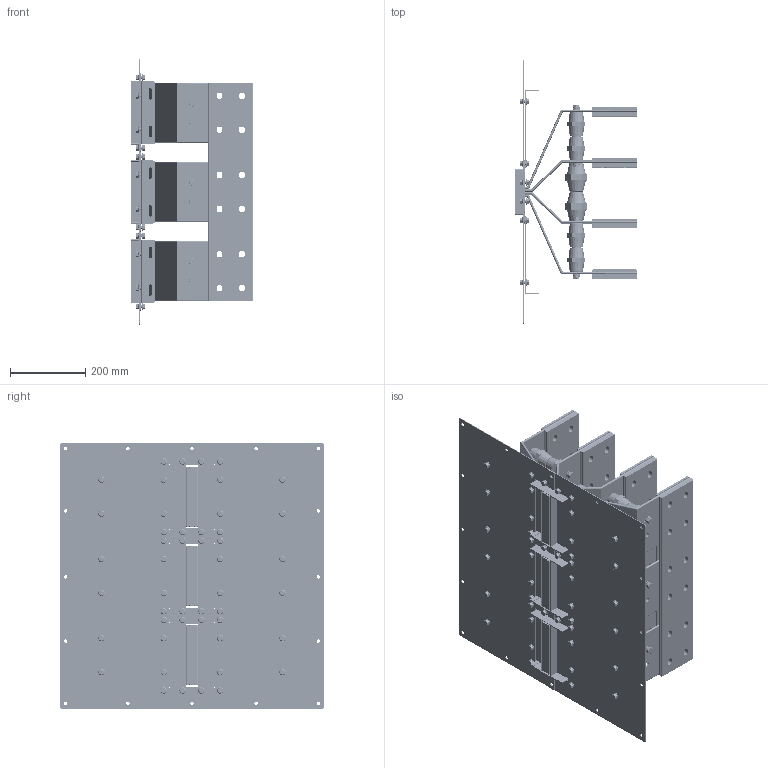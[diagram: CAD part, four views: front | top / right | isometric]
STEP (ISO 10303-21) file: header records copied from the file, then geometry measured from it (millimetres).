
FILE_DESCRIPTION(('CATIA V5 STEP','CAx-IF Rec.Pracs.--- Model Styling and Organization---1.5--- 2016-08-15','CAx-IF Rec.Pracs.---Supplemental Geometry---1.0---2011-11-01','CAx-IF Rec.Pracs.--- Composite Materials ---1.1---2010-07-15'),'2;1');
FILE_NAME('K:\COSCN 2011\32372311_RiduzioneSezioniBarre\03_Studio\__Modelli semplificati\XCP_UB semplificati per studi\XCP-S_UB_4C_Pe_CRT_Assieme\Al\XCP-S_UB_4C_Pe_T_Assieme - 5000A Al\XCP-S_UB_4C_Pe_T_Assieme - 5000A Al_CRT.stp','2025-05-12T12:48:27+00:00',('Utente Bticino'),('Bticino S.p.A.'),'CATIA Version 5-6 Release 2020 SP5','CATIA V5 STEP AP214 v2','none');
FILE_SCHEMA(('AUTOMOTIVE_DESIGN { 1 0 10303 214 1 1 1 1 }'));
Products named in the file (40): XCP-S_UB_4C_Pe_T_Assieme - 5000A Al_CRT; XCP-S_UB_4C_Pe_T_Lamiere_5000A Al_CRT; XCP-S_UB_4C_Pe_T_PaccoBarre_5000A Al_CRT; XCP-S_UB_4C_Pe_T_PaccoBarre_5000A Al_CRT_1; XCP-S_UB_4C_Pe_T_PaccoBarre_5000A Al_CRT_2; XCP-S_UB_4C_Pe_T - 5000A Al_Bandelle parallelo_CRT; 130006; 130184; 00750033 - RONDELLA PIANA 4.8 D.12 UNI 6592 ZB; Ass_M10x25.1; 00740025 M10x25 UNI5739; Rondella spac M10 UNI 1751; 00750005; 130006_1; 130184_1; 00750033 - RONDELLA PIANA 4.8 D.12 UNI 6592 ZB_1; 130006_2; 00750033 - RONDELLA PIANA 4.8 D.12 UNI 6592 ZB_2; 130006_3; 130006_4; 130006_5; 130006_6; 130006_7; 00750033 - RONDELLA PIANA 4.8 D.12 UNI 6592 ZB_3; 00750033 - RONDELLA PIANA 4.8 D.12 UNI 6592 ZB_4; 00750033 - RONDELLA PIANA 4.8 D.12 UNI 6592 ZB_5; 00750033 - RONDELLA PIANA 4.8 D.12 UNI 6592 ZB_6; 130006_8; 130006_9; 130006_10; 130006_11; 130184_2; 00750033 - RONDELLA PIANA 4.8 D.12 UNI 6592 ZB_7; 130184_3; 130184_4; 00750033 - RONDELLA PIANA 4.8 D.12 UNI 6592 ZB_8; 130184_5; Ass Vite+dado M8; Steel hex flanged SCREW M12x16; Steel hex flanged NUT M8
Assembly tree (103 placements, depth 3):
  XCP-S_UB_4C_Pe_T_Assieme - 5000A Al_CRT
    XCP-S_UB_4C_Pe_T_Lamiere_5000A Al_CRT
    XCP-S_UB_4C_Pe_T_PaccoBarre_5000A Al_CRT
    XCP-S_UB_4C_Pe_T_PaccoBarre_5000A Al_CRT_1
    XCP-S_UB_4C_Pe_T_PaccoBarre_5000A Al_CRT_2
    XCP-S_UB_4C_Pe_T - 5000A Al_Bandelle parallelo_CRT
    130006
    130184
    00750033 - RONDELLA PIANA 4.8 D.12 UNI 6592 ZB
    Ass_M10x25.1  x18
      00740025 M10x25 UNI5739
      Rondella spac M10 UNI 1751
      00750005
    130006_1
    130184_1
    00750033 - RONDELLA PIANA 4.8 D.12 UNI 6592 ZB_1
    130006_2
    00750033 - RONDELLA PIANA 4.8 D.12 UNI 6592 ZB_2
    130006_3
    130006_4
    130006_5
    130006_6
    130006_7
    00750033 - RONDELLA PIANA 4.8 D.12 UNI 6592 ZB_3
    00750033 - RONDELLA PIANA 4.8 D.12 UNI 6592 ZB_4
    00750033 - RONDELLA PIANA 4.8 D.12 UNI 6592 ZB_5
    00750033 - RONDELLA PIANA 4.8 D.12 UNI 6592 ZB_6
    130006_8
    130006_9
    130006_10
    130006_11
    130184_2
    00750033 - RONDELLA PIANA 4.8 D.12 UNI 6592 ZB_7
    130184_3
    130184_4
    00750033 - RONDELLA PIANA 4.8 D.12 UNI 6592 ZB_8
    130184_5
    Ass Vite+dado M8  x48
      Steel hex flanged SCREW M12x16
      Steel hex flanged NUT M8
Bounding box: 325 x 700 x 705 mm (x, y, z)
Volume: 13016004 mm3; surface area: 5073342.9 mm2
Topology: 221 solids, 221 shells, 5332 faces, 12984 edges, 8208 vertices
Faces by surface type: plane 2396, cylinder 1616, cone 600, bspline 528, torus 192
Entity records: 74687 total; most frequent: CARTESIAN_POINT 14560, ORIENTED_EDGE 13208, DIRECTION 9770, EDGE_CURVE 6604, VERTEX_POINT 4256, AXIS2_PLACEMENT_3D 4068, VECTOR 4056, LINE 4056
